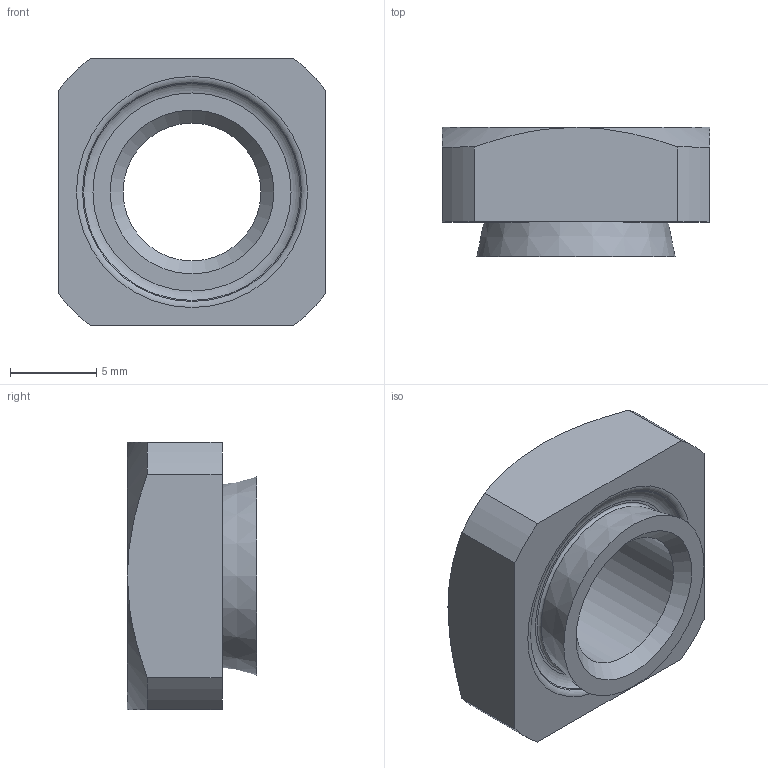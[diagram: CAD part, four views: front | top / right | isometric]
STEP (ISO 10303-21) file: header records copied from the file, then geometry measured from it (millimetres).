
FILE_DESCRIPTION(/* description */ (''),/* implementation_level */ '2;1');
FILE_NAME(/* name */ 'D:\Sukhmani\Fastit\HN Nut\HN 8-2.5.stp',/* time_stamp */ '2024-03-14T12:23:15+06:00',/* author */ ('edc.sukhmani'),/* organization */ (''),/* preprocessor_version */ 'ST-DEVELOPER v18.1',/* originating_system */ 'Autodesk Inventor 2022',/* authorisation */ '');
FILE_SCHEMA (('AUTOMOTIVE_DESIGN { 1 0 10303 214 3 1 1 }'));
Length unit declared in the file: millimetre
Products named in the file (1): HN 8-2.5
Bounding box: 15.52 x 7.5 x 15.52 mm (x, y, z)
Volume: 1048.8 mm3; surface area: 939.3 mm2
Topology: 1 solids, 1 shells, 25 faces, 58 edges, 37 vertices
Faces by surface type: cone 8, plane 8, cylinder 6, torus 3
Full cylindrical faces by diameter (mm): 8 x1, 9.5 x1
Entity records: 763 total; most frequent: CARTESIAN_POINT 137, DIRECTION 134, ORIENTED_EDGE 116, EDGE_CURVE 58, AXIS2_PLACEMENT_3D 58, VERTEX_POINT 37, CIRCLE 32, EDGE_LOOP 29
